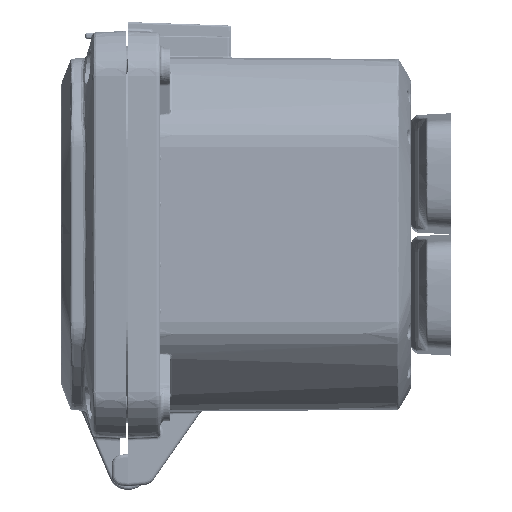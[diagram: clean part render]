
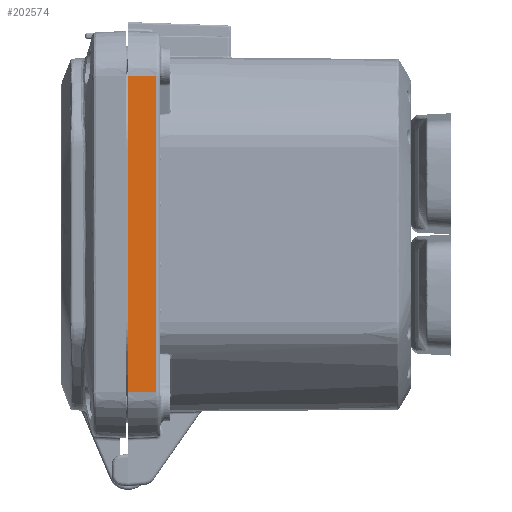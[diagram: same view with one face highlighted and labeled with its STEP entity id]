
A CAD part, left-side view. The second image highlights one B-rep face of the part: STEP entity #202574.
In plain terms, the highlighted planar face has unit normal (-0.999, -0.035, 0).
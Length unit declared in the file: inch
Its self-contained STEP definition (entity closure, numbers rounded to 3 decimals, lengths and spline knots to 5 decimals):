
#5752 = ORIENTED_EDGE ( 'NONE', *, *, #236089, .F. ) ;
#6997 = DIRECTION ( 'NONE',  ( 0., 0., 1. ) ) ;
#16589 = CARTESIAN_POINT ( 'NONE',  ( -3.52, 0., -1.95755 ) ) ;
#16906 = LINE ( 'NONE', #89772, #223316 ) ;
#18030 = VECTOR ( 'NONE', #6997, 39.37008 ) ;
#18128 = DIRECTION ( 'NONE',  ( 0.035, -0.999, 0. ) ) ;
#18457 = VERTEX_POINT ( 'NONE', #203510 ) ;
#37979 = LINE ( 'NONE', #188538, #18030 ) ;
#50765 = EDGE_CURVE ( 'NONE', #69570, #18457, #16906, .T. ) ;
#69570 = VERTEX_POINT ( 'NONE', #16589 ) ;
#70111 = LINE ( 'NONE', #199742, #140698 ) ;
#77432 = EDGE_CURVE ( 'NONE', #162030, #103014, #70111, .T. ) ;
#89772 = CARTESIAN_POINT ( 'NONE',  ( -3.52, 0., -1.95755 ) ) ;
#94942 = EDGE_CURVE ( 'NONE', #18457, #103014, #37979, .T. ) ;
#97512 = PLANE ( 'NONE',  #226332 ) ;
#101826 = LINE ( 'NONE', #236300, #171263 ) ;
#103014 = VERTEX_POINT ( 'NONE', #173862 ) ;
#107122 = DIRECTION ( 'NONE',  ( 0.035, -0.999, 0. ) ) ;
#110078 = EDGE_LOOP ( 'NONE', ( #164621, #152713, #5752, #207830 ) ) ;
#125176 = DIRECTION ( 'NONE',  ( 0., 0., 1. ) ) ;
#132081 = CARTESIAN_POINT ( 'NONE',  ( -3.52, 0., 2.2 ) ) ;
#140698 = VECTOR ( 'NONE', #107122, 39.37008 ) ;
#152713 = ORIENTED_EDGE ( 'NONE', *, *, #77432, .F. ) ;
#162030 = VERTEX_POINT ( 'NONE', #244298 ) ;
#164621 = ORIENTED_EDGE ( 'NONE', *, *, #94942, .T. ) ;
#171263 = VECTOR ( 'NONE', #125176, 39.37008 ) ;
#172797 = DIRECTION ( 'NONE',  ( 0.035, -0.999, 0. ) ) ;
#173862 = CARTESIAN_POINT ( 'NONE',  ( -3.50772, -0.35174, 1.95755 ) ) ;
#188538 = CARTESIAN_POINT ( 'NONE',  ( -3.50772, -0.35174, 1.95755 ) ) ;
#191324 = FACE_OUTER_BOUND ( 'NONE', #110078, .T. ) ;
#199742 = CARTESIAN_POINT ( 'NONE',  ( -3.52, 0., 1.95755 ) ) ;
#202574 = ADVANCED_FACE ( 'NONE', ( #191324 ), #97512, .T. ) ;
#203510 = CARTESIAN_POINT ( 'NONE',  ( -3.50772, -0.35174, -1.95755 ) ) ;
#207374 = DIRECTION ( 'NONE',  ( -0.999, -0.035, 0. ) ) ;
#207830 = ORIENTED_EDGE ( 'NONE', *, *, #50765, .T. ) ;
#223316 = VECTOR ( 'NONE', #18128, 39.37008 ) ;
#226332 = AXIS2_PLACEMENT_3D ( 'NONE', #132081, #207374, #172797 ) ;
#236089 = EDGE_CURVE ( 'NONE', #69570, #162030, #101826, .T. ) ;
#236300 = CARTESIAN_POINT ( 'NONE',  ( -3.52, 0., 2.2 ) ) ;
#244298 = CARTESIAN_POINT ( 'NONE',  ( -3.52, 0., 1.95755 ) ) ;
